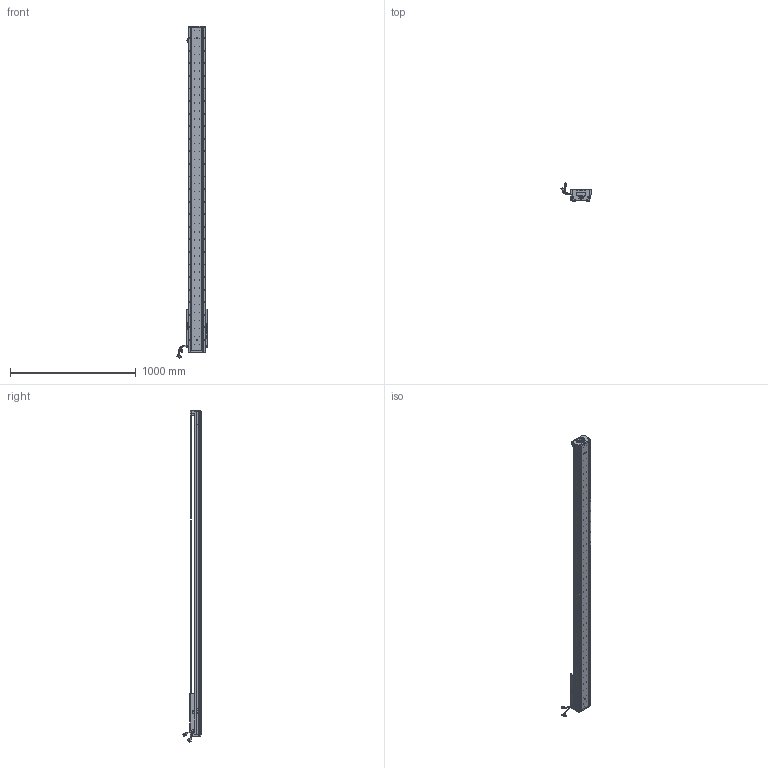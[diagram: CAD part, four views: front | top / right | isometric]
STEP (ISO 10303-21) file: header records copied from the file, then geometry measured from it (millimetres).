
FILE_DESCRIPTION (( 'STEP AP203' ), '1' );
FILE_NAME ('Z4-RY140D-1-L500-B-K.SLDASM_2200.step', '2021-05-17T08:18:55', ( '盈信电脑' ), ( '东莞市道滘镇水果街19号' ), 'SwSTEP 2.0', 'SolidWorks 2016', '' );
FILE_SCHEMA (( 'CONFIG_CONTROL_DESIGN' ));
Length unit declared in the file: millimetre
Products named in the file (36): SCREW-M1.6-3; 詩湍奻揤裔; COVER-Part-1; HARNESS; Z-RY140感应器672光电感应片; 140-Z-臏賑輸盄裔(21遴); Z4-RY140圉猾敕臏賑輸(21遴); SCREW-M1.7-1; SCREW-M1.6-1; SHIELDPLATE; SCREW-M1.6; SCALE-Part-2; Z4-RY140D-1-L500-B-K.SLDASM_2200; 140蚥薯蝶輸; SEAL; SEAL-Part-1; 140雄赽晤鎢ん堤盄; PBU_SHEET; LABEL; SCREW-M1.6-2; LABEL-Part-1; 詩湍狟揤裔; HARNESS-Part-1; HOLDER0; Z4-RY140-L500詩湍100mm遵_2200; HARNESS-Part-2; SCALE-Part-1; 榋妏寠巭燃_暯_M2_2; Z4-RY140-L500直线电机模组底座_2200; PSLH080_PSLF2; Z-140詩湍傷裔啣; 080黍杅芛假蚾釱21遴; 覜茼ん672; SCALE; COVER; SCREW-M1.7
Assembly tree (41 placements, depth 4):
  Z4-RY140D-1-L500-B-K.SLDASM_2200
    Z4-RY140-L500直线电机模组底座_2200
    Z-RY140感应器672光电感应片
    Z4-RY140圉猾敕臏賑輸(21遴)
    覜茼ん672  x3
    Z4-RY140-L500詩湍100mm遵_2200
    PSLH080_PSLF2
      SCALE
        SCALE-Part-1
        SCALE-Part-2
      HARNESS
        HARNESS-Part-1
        HARNESS-Part-2
      LABEL
        LABEL-Part-1
      COVER
        COVER-Part-1
      SEAL
        SEAL-Part-1
      榋妏寠巭燃_暯_M2_2
      SHIELDPLATE
      SCREW-M1.7
      SCREW-M1.7-1
      PBU_SHEET
      SCREW-M1.6
      SCREW-M1.6-1
      SCREW-M1.6-2
      SCREW-M1.6-3
      HOLDER0
    080黍杅芛假蚾釱21遴
    140-Z-臏賑輸盄裔(21遴)
    Z-140詩湍傷裔啣  x2
    詩湍狟揤裔  x2
    詩湍奻揤裔  x2
    140蚥薯蝶輸  x2
    140雄赽晤鎢ん堤盄
Bounding box: 239.79 x 143.88 x 2640.87 mm (x, y, z)
Volume: 8676154.4 mm3; surface area: 2237834.5 mm2
Topology: 36 solids, 36 shells, 4078 faces, 11077 edges, 7014 vertices
Faces by surface type: cylinder 2198, plane 1356, cone 402, torus 69, bspline 53
Entity records: 128953 total; most frequent: CARTESIAN_POINT 36201, ORIENTED_EDGE 19074, DIRECTION 17741, EDGE_CURVE 9537, AXIS2_PLACEMENT_3D 6602, VERTEX_POINT 6182, LINE 4537, VECTOR 4537
